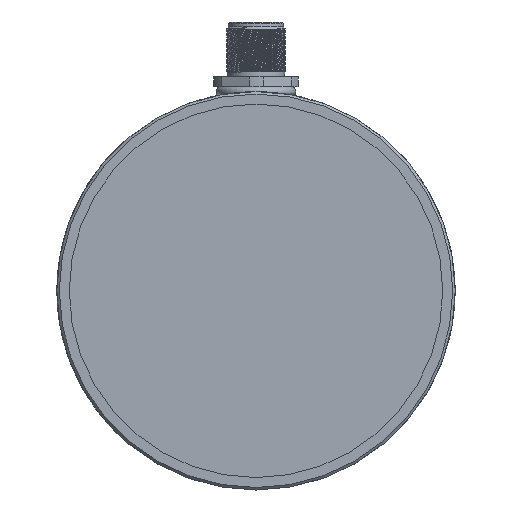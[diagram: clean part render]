
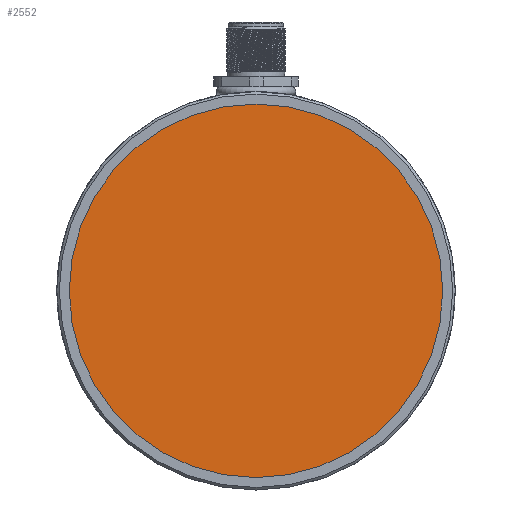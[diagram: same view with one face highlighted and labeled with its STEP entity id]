
A CAD part, left-side view. The second image highlights one B-rep face of the part: STEP entity #2552.
In plain terms, the highlighted planar face has unit normal (-1, 0, 0).
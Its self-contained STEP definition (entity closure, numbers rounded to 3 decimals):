
#493=CIRCLE('',#2735,37.5);
#591=VERTEX_POINT('',#3433);
#1057=EDGE_CURVE('',#591,#591,#493,.T.);
#1421=ORIENTED_EDGE('',*,*,#1057,.T.);
#2110=EDGE_LOOP('',(#1421));
#2334=FACE_BOUND('',#2110,.T.);
#2552=ADVANCED_FACE('',(#2334),#16824,.T.);
#2735=AXIS2_PLACEMENT_3D('',#3432,#2963,#2964);
#2737=AXIS2_PLACEMENT_3D('',#3436,#2967,$);
#2963=DIRECTION('',(-1.,0.,0.));
#2964=DIRECTION('',(0.,0.,37.5));
#2967=DIRECTION('',(-1.,0.,0.));
#3432=CARTESIAN_POINT('',(1.,0.,0.));
#3433=CARTESIAN_POINT('',(1.,0.,37.5));
#3436=CARTESIAN_POINT('',(1.,0.,0.));
#16824=PLANE('',#2737);
